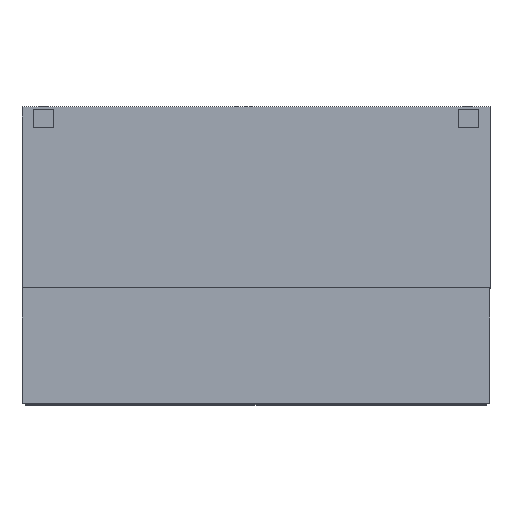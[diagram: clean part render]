
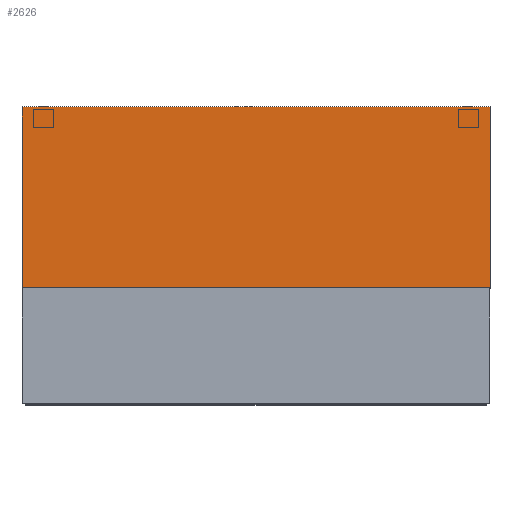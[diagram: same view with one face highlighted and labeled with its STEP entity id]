
A CAD part, top view. The second image highlights one B-rep face of the part: STEP entity #2626.
In plain terms, the highlighted planar face has unit normal (0, 0, 1).
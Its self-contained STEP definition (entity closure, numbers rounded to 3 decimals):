
#1687=CARTESIAN_POINT('POINT10625',(297.5,
   -229.975,715.));
#1688=VERTEX_POINT('VERTEX10625',#1687);
#1695=CARTESIAN_POINT('POINT10626',(-297.5,
   -229.975,715.));
#1696=VERTEX_POINT('VERTEX10626',#1695);
#1697=CARTESIAN_POINT('POS17772',(0.,-229.975,
   715.));
#1698=DIRECTION('DIR24370',(1.,0.,0.));
#1699=VECTOR('VEC11174',#1698,25.4);
#1700=LINE('STRAIGHT11174',#1697,#1699);
#1701=EDGE_CURVE('EDGE16306',#1696,#1688,#1700,.T.);
#2579=CARTESIAN_POINT('POINT10695',(297.5,0.,
   715.));
#2580=VERTEX_POINT('VERTEX10695',#2579);
#2587=CARTESIAN_POINT('POS17856',(297.5,-114.987
   ,715.));
#2588=DIRECTION('DIR24482',(0.,1.,0.));
#2589=VECTOR('VEC11230',#2588,25.4);
#2590=LINE('STRAIGHT11230',#2587,#2589);
#2591=EDGE_CURVE('EDGE16410',#1688,#2580,#2590,.T.);
#2603=ORIENTED_EDGE('COEDGE32808',*,*,#2591,.T.);
#2604=CARTESIAN_POINT('POINT10696',(-297.5,0.,
   715.));
#2605=VERTEX_POINT('VERTEX10696',#2604);
#2606=CARTESIAN_POINT('POS17858',(0.,0.,715.
   ));
#2607=DIRECTION('DIR24485',(-1.,0.,0.));
#2608=VECTOR('VEC11231',#2607,25.4);
#2609=LINE('STRAIGHT11231',#2606,#2608);
#2610=EDGE_CURVE('EDGE16411',#2580,#2605,#2609,.T.);
#2611=ORIENTED_EDGE('COEDGE32809',*,*,#2610,.T.);
#2612=CARTESIAN_POINT('POS17859',(-297.5,
   -114.987,715.));
#2613=DIRECTION('DIR24486',(0.,-1.,0.));
#2614=VECTOR('VEC11232',#2613,25.4);
#2615=LINE('STRAIGHT11232',#2612,#2614);
#2616=EDGE_CURVE('EDGE16412',#2605,#1696,#2615,.T.);
#2617=ORIENTED_EDGE('COEDGE32810',*,*,#2616,.T.);
#2618=ORIENTED_EDGE('COEDGE32811',*,*,#1701,.T.);
#2619=EDGE_LOOP('NONE',(#2603,#2611,#2617,#2618));
#2620=FACE_BOUND('LOOP1',#2619,.T.);
#2621=CARTESIAN_POINT('POS17860',(0.,-114.987,
   715.));
#2622=DIRECTION('DIR24487',(0.,0.,1.));
#2623=DIRECTION('DIR24488',(1.,0.,0.));
#2624=AXIS2_PLACEMENT_3D('AXIS6628',#2621,#2622,#2623);
#2625=PLANE('PLANE3669',#2624);
#2626=ADVANCED_FACE('FACE6201',(#2620),#2625,.T.);
